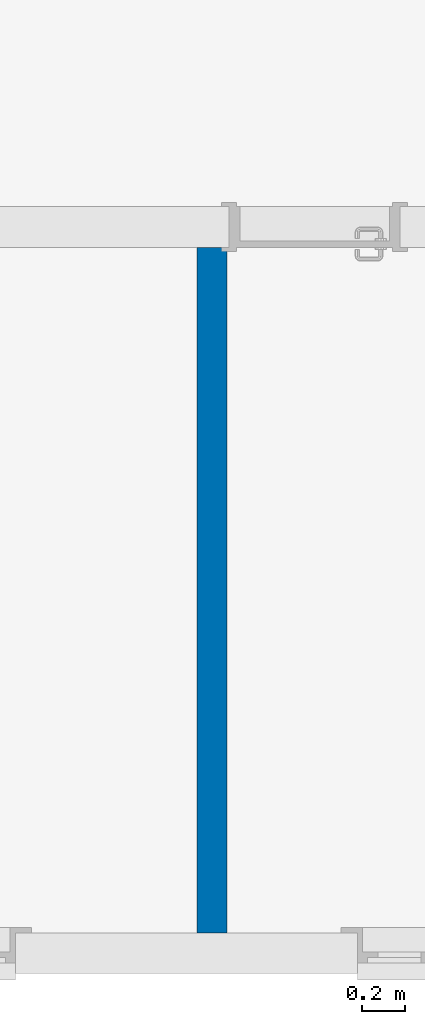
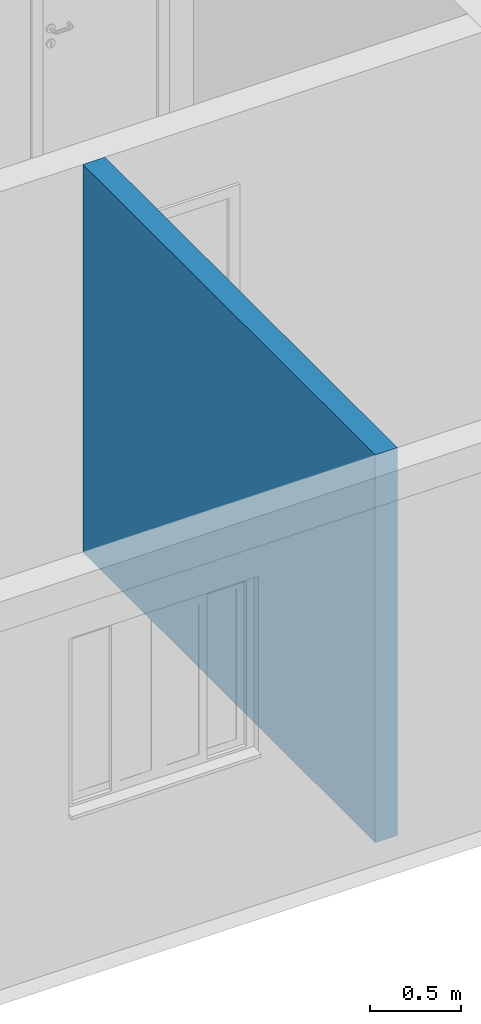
# One storey, part 7 of 47: 1 wall.
"""IFC2X3 building model written with IfcOpenShell, lengths in millimetres."""

import ifcopenshell
import ifcopenshell.guid

model = None  # the IFC model being written
_history = None  # IfcOwnerHistory: only IFC2X3 demands one
_inside = {}  # id of a spatial element -> (the spatial element, [elements in it])
_under = {}  # id of a project, library or spatial element -> (it, [spatial elements below it])
_declared = {}  # id of a project -> (the project, [libraries it declares])
_typed = {}  # id of a type object -> (the type object, [elements of that type])
_made_of = {}  # id of a material, layer set ... -> (it, [elements and type objects made of it])


def new_model(schema):
    """Start an empty IFC model of exactly this schema.

    Asked for "IFC4X3", IfcOpenShell would pick the latest addendum, in which some entities
    have other attributes; the version numbers below select the first issue.
    IFC2X3 requires an IfcOwnerHistory on every rooted entity: one is made here for all.
    """
    global model, _history
    if schema == "IFC4X3":
        model = ifcopenshell.file(schema_version=(4, 3, 0, 0))
    else:
        model = ifcopenshell.file(schema=schema)
    _inside.clear()
    _under.clear()
    _declared.clear()
    _typed.clear()
    _made_of.clear()
    _history = None
    if model.schema == "IFC2X3":
        org = make("IfcOrganization", Name="unknown")
        user = make(
            "IfcPersonAndOrganization",
            ThePerson=make("IfcPerson", FamilyName="unknown"),
            TheOrganization=org,
        )
        app = make(
            "IfcApplication",
            ApplicationDeveloper=org,
            Version="unknown",
            ApplicationFullName="unknown",
            ApplicationIdentifier="unknown",
        )
        _history = make(
            "IfcOwnerHistory",
            OwningUser=user,
            OwningApplication=app,
            ChangeAction="ADDED",
            CreationDate=0,
        )
    return model


def make(cls, **values):
    """One entity of the class cls with the attributes given. An attribute that is None is left unset."""
    return model.create_entity(
        cls, **{name: value for name, value in values.items() if value is not None}
    )


def entity(cls, *values):
    """Any entity or typed value of the class cls, its attributes in the order of the schema. None: left unset."""
    e = model.create_entity(cls)
    for i, value in enumerate(values):
        if value is not None:
            e[i] = value
    return e


def rooted(cls, **values):
    """An entity with a GlobalId (a new one), such as an element, a storey or a relation."""
    return make(cls, GlobalId=ifcopenshell.guid.new(), OwnerHistory=_history, **values)


def si_unit(unit_type, name, prefix=None):
    """IfcSIUnit, for example si_unit("LENGTHUNIT", "METRE", prefix="MILLI")."""
    return make("IfcSIUnit", UnitType=unit_type, Prefix=prefix, Name=name)


def converted_unit(unit_type, name, factor, base, dimensions=None, offset=None):
    """IfcConversionBasedUnit, such as the inch: factor (a typed value) times the base unit."""
    return make(
        "IfcConversionBasedUnit"
        if offset is None
        else "IfcConversionBasedUnitWithOffset",
        ConversionOffset=offset,
        Dimensions=None
        if dimensions is None
        else entity("IfcDimensionalExponents", *dimensions),
        UnitType=unit_type,
        Name=name,
        ConversionFactor=make(
            "IfcMeasureWithUnit", ValueComponent=factor, UnitComponent=base
        ),
    )


def derived_unit(unit_type, elements):
    """IfcDerivedUnit: a product of units, each with its exponent."""
    return make(
        "IfcDerivedUnit",
        Elements=[
            make("IfcDerivedUnitElement", Unit=unit, Exponent=power)
            for unit, power in elements
        ],
        UnitType=unit_type,
    )


def money_unit(currency):
    """IfcMonetaryUnit."""
    return make("IfcMonetaryUnit", Currency=currency)


def assignment(units):
    """IfcUnitAssignment: the units of a project."""
    return None if units is None else make("IfcUnitAssignment", Units=units)


def point(xyz):
    """IfcCartesianPoint."""
    return None if xyz is None else make("IfcCartesianPoint", Coordinates=xyz)


def direction(xyz):
    """IfcDirection."""
    return None if xyz is None else make("IfcDirection", DirectionRatios=xyz)


def frame(location, z_axis=None, x_axis=None):
    """IfcAxis2Placement3D, a coordinate frame: its origin and axes. An axis left out is left unset."""
    return make(
        "IfcAxis2Placement3D",
        Location=point(location),
        Axis=direction(z_axis),
        RefDirection=direction(x_axis),
    )


def origin_with_axes():
    """The frame at (0, 0, 0) with the z axis (0, 0, 1) and the x axis (1, 0, 0) written out."""
    return frame((0.0, 0.0, 0.0), z_axis=(0.0, 0.0, 1.0), x_axis=(1.0, 0.0, 0.0))


def place(relative_to, where):
    """IfcLocalPlacement: puts the frame where relative to a parent placement (None: the world)."""
    return make(
        "IfcLocalPlacement", PlacementRelTo=relative_to, RelativePlacement=where
    )


def context(
    kind, dimensions, precision=None, world=None, true_north=None, identifier=None
):
    """IfcGeometricRepresentationContext, for example the 3D "Model" context."""
    return make(
        "IfcGeometricRepresentationContext",
        ContextIdentifier=identifier,
        ContextType=kind,
        CoordinateSpaceDimension=dimensions,
        Precision=precision,
        WorldCoordinateSystem=world,
        TrueNorth=true_north,
    )


def subcontext(parent, identifier, kind, view, scale=None):
    """IfcGeometricRepresentationSubContext, for example "Body" below "Model"."""
    return make(
        "IfcGeometricRepresentationSubContext",
        ContextIdentifier=identifier,
        ContextType=kind,
        ParentContext=parent,
        TargetScale=scale,
        TargetView=view,
    )


def project(units=None, contexts=None):
    """IfcProject with its units and contexts."""
    return rooted(
        "IfcProject",
        Name="project",
        RepresentationContexts=contexts,
        UnitsInContext=assignment(units),
    )


def spatial(cls, under=None, at=None, **own):
    """A site, building, storey or space (cls), placed at a placement, below another one or the project."""
    s = rooted(cls, ObjectPlacement=at, **own)
    if under is not None:
        _under.setdefault(under.id(), (under, []))[1].append(s)
    return s


def polyline(points):
    """IfcPolyline through the points."""
    return make("IfcPolyline", Points=[point(p) for p in points])


def outline(outer, holes=None, kind="AREA"):
    """IfcArbitraryClosedProfileDef: a profile drawn as a closed curve; with holes, ...WithVoids."""
    if holes is None:
        return make("IfcArbitraryClosedProfileDef", ProfileType=kind, OuterCurve=outer)
    return make(
        "IfcArbitraryProfileDefWithVoids",
        ProfileType=kind,
        OuterCurve=outer,
        InnerCurves=holes,
    )


def extrude(swept, where, along, depth):
    """IfcExtrudedAreaSolid: the profile swept, set in the frame where, extruded along a direction by depth."""
    return make(
        "IfcExtrudedAreaSolid",
        SweptArea=swept,
        Position=where,
        ExtrudedDirection=direction(along),
        Depth=depth,
    )


def shape(context_of_items, identifier, shape_type, items):
    """IfcShapeRepresentation: the items that make up one representation, for example the "Body"."""
    return make(
        "IfcShapeRepresentation",
        ContextOfItems=context_of_items,
        RepresentationIdentifier=identifier,
        RepresentationType=shape_type,
        Items=items,
    )


def material(Name=None, Category=None):
    """IfcMaterial."""
    return make("IfcMaterial", Name=Name, Category=Category)


def layer(
    of_material, thickness, ventilated=None, Name=None, Category=None, Priority=None
):
    """IfcMaterialLayer: one layer of a wall or slab, of a material (None: an air gap)."""
    return make(
        "IfcMaterialLayer",
        Material=of_material,
        LayerThickness=thickness,
        IsVentilated=ventilated,
        Name=Name,
        Category=Category,
        Priority=Priority,
    )


def layer_set(layers, Name=None):
    """IfcMaterialLayerSet."""
    return make("IfcMaterialLayerSet", MaterialLayers=layers, LayerSetName=Name)


def layer_usage(for_layer_set, set_direction, sense, offset, extent=None):
    """IfcMaterialLayerSetUsage: how a layer set lies in its element."""
    return make(
        "IfcMaterialLayerSetUsage",
        ForLayerSet=for_layer_set,
        LayerSetDirection=set_direction,
        DirectionSense=sense,
        OffsetFromReferenceLine=offset,
        ReferenceExtent=extent,
    )


def made_of(thing, what):
    """Note that an element or type object is made of a material, layer set ...; save() writes the relation."""
    if what is not None:
        _made_of.setdefault(what.id(), (what, []))[1].append(thing)
    return thing


def type_object(cls, material=None, **own):
    """A type object (cls), such as IfcWallType, which elements share."""
    return made_of(rooted(cls, **own), material)


def element(
    cls,
    number,
    at=None,
    inside=None,
    cuts=None,
    type_object=None,
    material=None,
    context=None,
    identifier="Body",
    shape_type=None,
    held_by="IfcProductDefinitionShape",
    body=None,
    shapes=None,
    **own,
):
    """One element of the class cls, such as IfcWall. Its Tag is "e" and its number.

    at: its placement. inside: the storey or other place that contains it. cuts: it is an
    opening in that element (IfcRelVoidsElement). A single representation is given by context,
    identifier, shape_type and body (its items); several are given by shapes. held_by: the class
    of the entity that holds the representations. save() writes the other relations.
    """
    e = rooted(cls, Tag="e%d" % number, ObjectPlacement=at, **own)
    if body is not None:
        shapes = [shape(context, identifier, shape_type, body)]
    if shapes is not None:
        e.Representation = make(held_by, Representations=shapes)
    if inside is not None:
        _inside.setdefault(inside.id(), (inside, []))[1].append(e)
    if cuts is not None:
        rooted(
            "IfcRelVoidsElement", RelatingBuildingElement=cuts, RelatedOpeningElement=e
        )
    if type_object is not None:
        _typed.setdefault(type_object.id(), (type_object, []))[1].append(e)
    return made_of(e, material)


def aggregate(whole, parts):
    """IfcRelAggregates: a whole, such as a stair, and the parts it consists of."""
    return rooted("IfcRelAggregates", RelatingObject=whole, RelatedObjects=parts)


def save(model, path):
    """Write the relations noted so far, then the file.

    IfcRelAggregates (storeys below a building ...), IfcRelContainedInSpatialStructure (elements
    in a storey), IfcRelDefinesByType, IfcRelAssociatesMaterial and IfcRelDeclares: one each for
    every whole, place, type object, material and project.
    """
    for whole, parts in _under.values():
        aggregate(whole, parts)
    for where, things in _inside.values():
        rooted(
            "IfcRelContainedInSpatialStructure",
            RelatedElements=things,
            RelatingStructure=where,
        )
    for kind, things in _typed.values():
        rooted("IfcRelDefinesByType", RelatedObjects=things, RelatingType=kind)
    for what, things in _made_of.values():
        rooted("IfcRelAssociatesMaterial", RelatedObjects=things, RelatingMaterial=what)
    for by, libraries in _declared.values():
        rooted("IfcRelDeclares", RelatingContext=by, RelatedDefinitions=libraries)
    model.write(path)


model = new_model("IFC2X3")

# Units and contexts
model_context = context("Model", 3, precision=0.01, world=origin_with_axes(), true_north=direction((0.0, 1.0)))
body_context = subcontext(model_context, "Body", "Model", "MODEL_VIEW")
ifc_project = project(units=[si_unit("LENGTHUNIT", "METRE", prefix="MILLI"), si_unit("AREAUNIT", "SQUARE_METRE"), si_unit("VOLUMEUNIT", "CUBIC_METRE"), converted_unit("PLANEANGLEUNIT", "DEGREE", entity("IfcPlaneAngleMeasure", 0.0174532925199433), si_unit("PLANEANGLEUNIT", "RADIAN"), dimensions=[0, 0, 0, 0, 0, 0, 0]), money_unit("USD"), converted_unit("TIMEUNIT", "Year", entity("IfcTimeMeasure", 31557600.0), si_unit("TIMEUNIT", "SECOND"), dimensions=[0, 0, 1, 0, 0, 0, 0]), si_unit("MASSUNIT", "GRAM", prefix="KILO"), si_unit("THERMODYNAMICTEMPERATUREUNIT", "DEGREE_CELSIUS"), si_unit("LUMINOUSINTENSITYUNIT", "LUMEN"), si_unit("ENERGYUNIT", "JOULE", prefix="MEGA"), derived_unit("THERMALCONDUCTANCEUNIT", [(si_unit("POWERUNIT", "WATT"), 1), (si_unit("LENGTHUNIT", "METRE"), -1), (si_unit("THERMODYNAMICTEMPERATUREUNIT", "KELVIN"), -1)]), derived_unit("SPECIFICHEATCAPACITYUNIT", [(si_unit("ENERGYUNIT", "JOULE"), 1), (si_unit("MASSUNIT", "GRAM", prefix="KILO"), -1), (si_unit("THERMODYNAMICTEMPERATUREUNIT", "KELVIN"), -1)]), derived_unit("MASSDENSITYUNIT", [(si_unit("MASSUNIT", "GRAM", prefix="KILO"), 1), (si_unit("VOLUMEUNIT", "CUBIC_METRE"), -1)])], contexts=[model_context])

# Site, building, storey
site_placement = place(None, origin_with_axes())
site = spatial("IfcSite", under=ifc_project, at=site_placement, Name="Local", CompositionType="ELEMENT")
building_placement = place(site_placement, origin_with_axes())
building = spatial("IfcBuilding", under=site, at=building_placement, Name="Construção", CompositionType="ELEMENT")
storey_placement = place(building_placement, origin_with_axes())
storey = spatial("IfcBuildingStorey", under=building, at=storey_placement, Name="Pavimento Tipo", CompositionType="ELEMENT", Elevation=0.0)

# Wall
ifc_material = material(Name="Concreto")
ifc_layer = layer(ifc_material, 140.0, ventilated="UNKNOWN")
ifc_layer_set = layer_set([ifc_layer], Name="Concreto 140")
ifc_layer_usage = layer_usage(ifc_layer_set, "AXIS2", "NEGATIVE", 0.0)
wall_type = type_object("IfcWallType", Name="Concreto 140", PredefinedType="NOTDEFINED")
wall_placement = place(storey_placement, frame((-1557.433002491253, 1986.981417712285, 0.0), z_axis=(0.0, 0.0, 1.0), x_axis=(0.0, -1.0, 0.0)))
element("IfcWallStandardCase", 1, at=wall_placement, inside=storey, type_object=wall_type, material=ifc_layer_usage, Name="Apartamento 3 - Parede-085", context=body_context, shape_type="SweptSolid", body=[
    extrude(outline(polyline([(189.9999999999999, -140.0000000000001), (3399.999999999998, -140.0000000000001), (3399.999999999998, 0.0), (189.9999999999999, 0.0), (189.9999999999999, -140.0000000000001)])), origin_with_axes(), (0.0, 0.0, 1.0), 2600.0),
])

save(model, "model.ifc")
